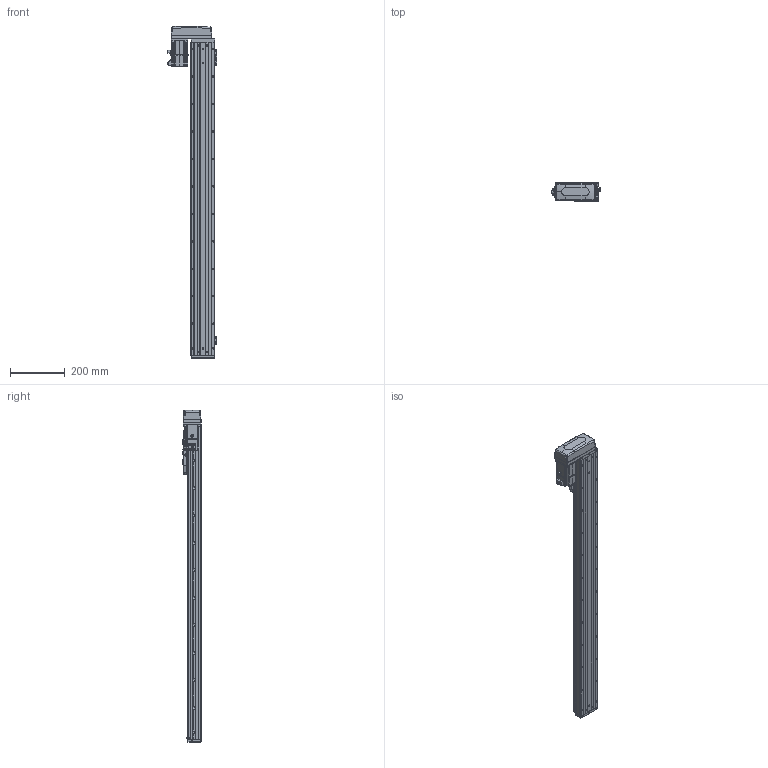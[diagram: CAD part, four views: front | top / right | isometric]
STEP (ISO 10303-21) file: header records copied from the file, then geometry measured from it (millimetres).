
FILE_DESCRIPTION (( 'STEP AP203' ), '1' );
FILE_NAME ('CTHA86-950-BR-M20-C4L.step', '2022-04-26T01:01:50', ( '微软用户' ), ( '微软中国' ), 'SwSTEP 2.0', 'SolidWorks 2020', '' );
FILE_SCHEMA (( 'CONFIG_CONTROL_DESIGN' ));
Length unit declared in the file: millimetre
Products named in the file (21): CTHA60-016; CTHA60-021; _X2_4E0983F1_X0_200W_1; CTHA86-015-1_CTHA86-015-2; KTHA86-001_1140; GBT77-2000 M3×3; CTHA86-002; CTHA86-033; KTHA86-004; GBT 70.1-M3×20; CTHA86-031; CTHA86-950-BR-M20-C4L; KTHA86-005; GBT70.1 M5℅16; CTHA86-030; GB¨uT 70.2-M3¡Á5_M3¡Á6; GBT 70.1-M3×16; GBT 70.3-M3℅6; EE_SX911P_R; GBT 70.1-M3℅6; CTHA60-017
Assembly tree (66 placements, depth 2):
  CTHA86-950-BR-M20-C4L
    KTHA86-001_1140
    KTHA86-004
    KTHA86-005
    GB¨uT 70.2-M3¡Á5_M3¡Á6  x10
    EE_SX911P_R  x3
    CTHA60-017  x3
    CTHA60-021  x2
    GBT77-2000 M3×3  x6
    GBT 70.1-M3×20
    GBT70.1 M5℅16  x14
    GBT 70.1-M3×16  x5
    GBT 70.1-M3℅6  x6
    CTHA60-016  x2
    _X2_4E0983F1_X0_200W_1
    CTHA86-002
    CTHA86-031
    CTHA86-030  x2
    GBT 70.3-M3℅6  x4
    CTHA86-015-1_CTHA86-015-2
    CTHA86-033
Bounding box: 178.52 x 68 x 1209 mm (x, y, z)
Volume: 4497415.9 mm3; surface area: 764961.5 mm2
Topology: 68 solids, 68 shells, 2846 faces, 6820 edges, 4204 vertices
Faces by surface type: plane 1499, cylinder 741, cone 375, torus 132, bspline 75, sphere 24
Entity records: 51019 total; most frequent: CARTESIAN_POINT 9843, DIRECTION 7959, ORIENTED_EDGE 7740, EDGE_CURVE 3870, AXIS2_PLACEMENT_3D 2704, LINE 2551, VECTOR 2551, VERTEX_POINT 2436
